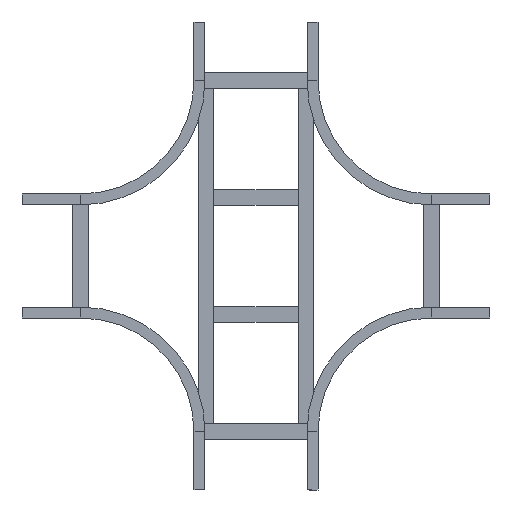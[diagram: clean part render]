
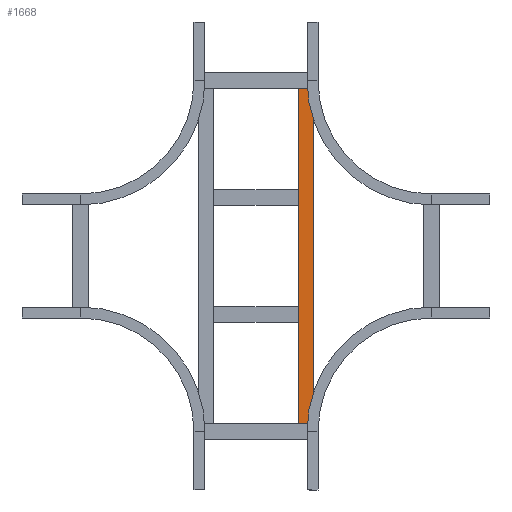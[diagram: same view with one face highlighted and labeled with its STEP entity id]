
A CAD part, front view. The second image highlights one B-rep face of the part: STEP entity #1668.
In plain terms, the highlighted planar face has unit normal (0, -1, 0).
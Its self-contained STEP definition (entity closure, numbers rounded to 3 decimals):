
#112 = DIRECTION ( 'NONE',  ( 0., 0., -1. ) ) ;
#116 = VERTEX_POINT ( 'NONE', #737 ) ;
#153 = ORIENTED_EDGE ( 'NONE', *, *, #1449, .F. ) ;
#271 = ORIENTED_EDGE ( 'NONE', *, *, #888, .T. ) ;
#304 = ORIENTED_EDGE ( 'NONE', *, *, #2034, .F. ) ;
#363 = DIRECTION ( 'NONE',  ( 0., 0., 1. ) ) ;
#405 = VERTEX_POINT ( 'NONE', #2007 ) ;
#450 = EDGE_LOOP ( 'NONE', ( #271, #304, #153, #1141 ) ) ;
#503 = AXIS2_PLACEMENT_3D ( 'NONE', #1232, #1768, #363 ) ;
#631 = DIRECTION ( 'NONE',  ( -1., 0., 0. ) ) ;
#737 = CARTESIAN_POINT ( 'NONE',  ( -429.75, 0., 20.25 ) ) ;
#794 = VECTOR ( 'NONE', #112, 1000. ) ;
#888 = EDGE_CURVE ( 'NONE', #116, #405, #2242, .T. ) ;
#966 = LINE ( 'NONE', #2203, #1821 ) ;
#996 = VECTOR ( 'NONE', #1215, 1000. ) ;
#1000 = CARTESIAN_POINT ( 'NONE',  ( -429.75, 0., 20.25 ) ) ;
#1038 = LINE ( 'NONE', #1388, #996 ) ;
#1062 = LINE ( 'NONE', #1772, #1608 ) ;
#1080 = EDGE_CURVE ( 'NONE', #1146, #116, #1038, .T. ) ;
#1141 = ORIENTED_EDGE ( 'NONE', *, *, #1080, .T. ) ;
#1146 = VERTEX_POINT ( 'NONE', #1815 ) ;
#1215 = DIRECTION ( 'NONE',  ( -1., 0., 0. ) ) ;
#1232 = CARTESIAN_POINT ( 'NONE',  ( 429.75, 0., 20.25 ) ) ;
#1388 = CARTESIAN_POINT ( 'NONE',  ( 429.75, 0., 20.25 ) ) ;
#1449 = EDGE_CURVE ( 'NONE', #1146, #1831, #1062, .T. ) ;
#1564 = PLANE ( 'NONE',  #503 ) ;
#1591 = DIRECTION ( 'NONE',  ( 0., 0., -1. ) ) ;
#1608 = VECTOR ( 'NONE', #1591, 1000. ) ;
#1668 = ADVANCED_FACE ( 'NONE', ( #2100 ), #1564, .F. ) ;
#1768 = DIRECTION ( 'NONE',  ( 0., 1., 0. ) ) ;
#1772 = CARTESIAN_POINT ( 'NONE',  ( 429.75, 0., 20.25 ) ) ;
#1815 = CARTESIAN_POINT ( 'NONE',  ( 429.75, 0., 20.25 ) ) ;
#1821 = VECTOR ( 'NONE', #631, 1000. ) ;
#1831 = VERTEX_POINT ( 'NONE', #1954 ) ;
#1954 = CARTESIAN_POINT ( 'NONE',  ( 429.75, 0., -20.25 ) ) ;
#2007 = CARTESIAN_POINT ( 'NONE',  ( -429.75, 0., -20.25 ) ) ;
#2034 = EDGE_CURVE ( 'NONE', #1831, #405, #966, .T. ) ;
#2100 = FACE_OUTER_BOUND ( 'NONE', #450, .T. ) ;
#2203 = CARTESIAN_POINT ( 'NONE',  ( 429.75, 0., -20.25 ) ) ;
#2242 = LINE ( 'NONE', #1000, #794 ) ;
